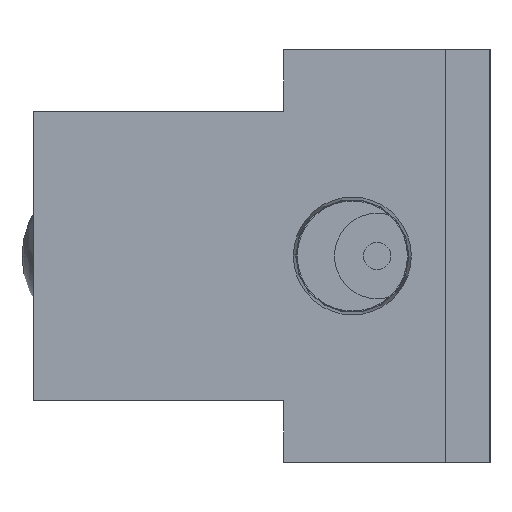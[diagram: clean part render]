
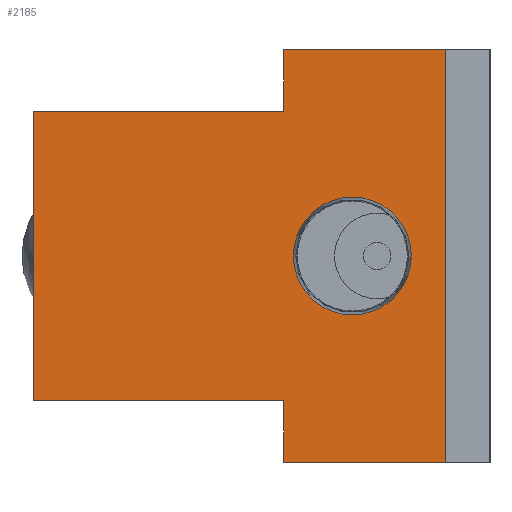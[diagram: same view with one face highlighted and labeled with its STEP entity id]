
A CAD part, left-side view. The second image highlights one B-rep face of the part: STEP entity #2185.
In plain terms, the highlighted planar face has unit normal (-1, 0, 0).
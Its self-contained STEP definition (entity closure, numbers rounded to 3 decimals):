
#2185 = ADVANCED_FACE( '', ( #4408, #4409 ), #4410, .F. );
#4408 = FACE_BOUND( '', #6559, .T. );
#4409 = FACE_OUTER_BOUND( '', #6560, .T. );
#4410 = PLANE( '', #6561 );
#6559 = EDGE_LOOP( '', ( #12173 ) );
#6560 = EDGE_LOOP( '', ( #12174, #12175, #12176, #12177, #12178, #12179, #12180, #12181 ) );
#6561 = AXIS2_PLACEMENT_3D( '', #12182, #12183, #12184 );
#12173 = ORIENTED_EDGE( '', *, *, #12411, .T. );
#12174 = ORIENTED_EDGE( '', *, *, #14022, .F. );
#12175 = ORIENTED_EDGE( '', *, *, #13885, .F. );
#12176 = ORIENTED_EDGE( '', *, *, #14143, .F. );
#12177 = ORIENTED_EDGE( '', *, *, #13762, .F. );
#12178 = ORIENTED_EDGE( '', *, *, #13331, .F. );
#12179 = ORIENTED_EDGE( '', *, *, #14038, .F. );
#12180 = ORIENTED_EDGE( '', *, *, #12746, .F. );
#12181 = ORIENTED_EDGE( '', *, *, #12592, .F. );
#12182 = CARTESIAN_POINT( '', ( 0., 0., 0. ) );
#12183 = DIRECTION( '', ( 1., 0., 0. ) );
#12184 = DIRECTION( '', ( 0., 0., -1. ) );
#12411 = EDGE_CURVE( '', #14740, #14740, #14741, .T. );
#12592 = EDGE_CURVE( '', #15053, #15055, #15056, .T. );
#12746 = EDGE_CURVE( '', #15055, #15319, #15320, .T. );
#13331 = EDGE_CURVE( '', #16243, #16245, #16246, .T. );
#13762 = EDGE_CURVE( '', #16245, #16867, #16868, .T. );
#13885 = EDGE_CURVE( '', #17030, #17032, #17033, .T. );
#14022 = EDGE_CURVE( '', #17032, #15053, #17201, .T. );
#14038 = EDGE_CURVE( '', #15319, #16243, #17219, .T. );
#14143 = EDGE_CURVE( '', #16867, #17030, #17349, .T. );
#14740 = VERTEX_POINT( '', #18105 );
#14741 = CIRCLE( '', #18106, 4.283 );
#15053 = VERTEX_POINT( '', #18538 );
#15055 = VERTEX_POINT( '', #18541 );
#15056 = LINE( '', #18542, #18543 );
#15319 = VERTEX_POINT( '', #18908 );
#15320 = LINE( '', #18909, #18910 );
#16243 = VERTEX_POINT( '', #20220 );
#16245 = VERTEX_POINT( '', #20223 );
#16246 = LINE( '', #20224, #20225 );
#16867 = VERTEX_POINT( '', #21111 );
#16868 = LINE( '', #21112, #21113 );
#17030 = VERTEX_POINT( '', #21357 );
#17032 = VERTEX_POINT( '', #21360 );
#17033 = LINE( '', #21361, #21362 );
#17201 = LINE( '', #21614, #21615 );
#17219 = LINE( '', #21642, #21643 );
#17349 = LINE( '', #21826, #21827 );
#18105 = CARTESIAN_POINT( '', ( 0., 11.083, 0. ) );
#18106 = AXIS2_PLACEMENT_3D( '', #22376, #22377, #22378 );
#18538 = CARTESIAN_POINT( '', ( 0., 11.8, 15. ) );
#18541 = CARTESIAN_POINT( '', ( 0., 0., 15. ) );
#18542 = CARTESIAN_POINT( '', ( 0., 11.8, 15. ) );
#18543 = VECTOR( '', #22560, 1000. );
#18908 = CARTESIAN_POINT( '', ( 0., 0., -15. ) );
#18909 = CARTESIAN_POINT( '', ( 0., 0., 15. ) );
#18910 = VECTOR( '', #22717, 1000. );
#20220 = CARTESIAN_POINT( '', ( 0., 11.8, -15. ) );
#20223 = CARTESIAN_POINT( '', ( 0., 11.8, -10.5 ) );
#20224 = CARTESIAN_POINT( '', ( 0., 11.8, -15. ) );
#20225 = VECTOR( '', #23283, 1000. );
#21111 = CARTESIAN_POINT( '', ( 0., 30., -10.5 ) );
#21112 = CARTESIAN_POINT( '', ( 0., 11.8, -10.5 ) );
#21113 = VECTOR( '', #23678, 1000. );
#21357 = CARTESIAN_POINT( '', ( 0., 30., 10.5 ) );
#21360 = CARTESIAN_POINT( '', ( 0., 11.8, 10.5 ) );
#21361 = CARTESIAN_POINT( '', ( 0., 30., 10.5 ) );
#21362 = VECTOR( '', #23774, 1000. );
#21614 = CARTESIAN_POINT( '', ( 0., 11.8, 10.5 ) );
#21615 = VECTOR( '', #23877, 1000. );
#21642 = CARTESIAN_POINT( '', ( 0., 0., -15. ) );
#21643 = VECTOR( '', #23887, 1000. );
#21826 = CARTESIAN_POINT( '', ( 0., 30., -10.5 ) );
#21827 = VECTOR( '', #23965, 1000. );
#22376 = CARTESIAN_POINT( '', ( 0., 6.8, 0. ) );
#22377 = DIRECTION( '', ( 1., 0., 0. ) );
#22378 = DIRECTION( '', ( 0., 1., 0. ) );
#22560 = DIRECTION( '', ( 0., -1., 0. ) );
#22717 = DIRECTION( '', ( 0., 0., -1. ) );
#23283 = DIRECTION( '', ( 0., 0., 1. ) );
#23678 = DIRECTION( '', ( 0., 1., 0. ) );
#23774 = DIRECTION( '', ( 0., -1., 0. ) );
#23877 = DIRECTION( '', ( 0., 0., 1. ) );
#23887 = DIRECTION( '', ( 0., 1., 0. ) );
#23965 = DIRECTION( '', ( 0., 0., 1. ) );
